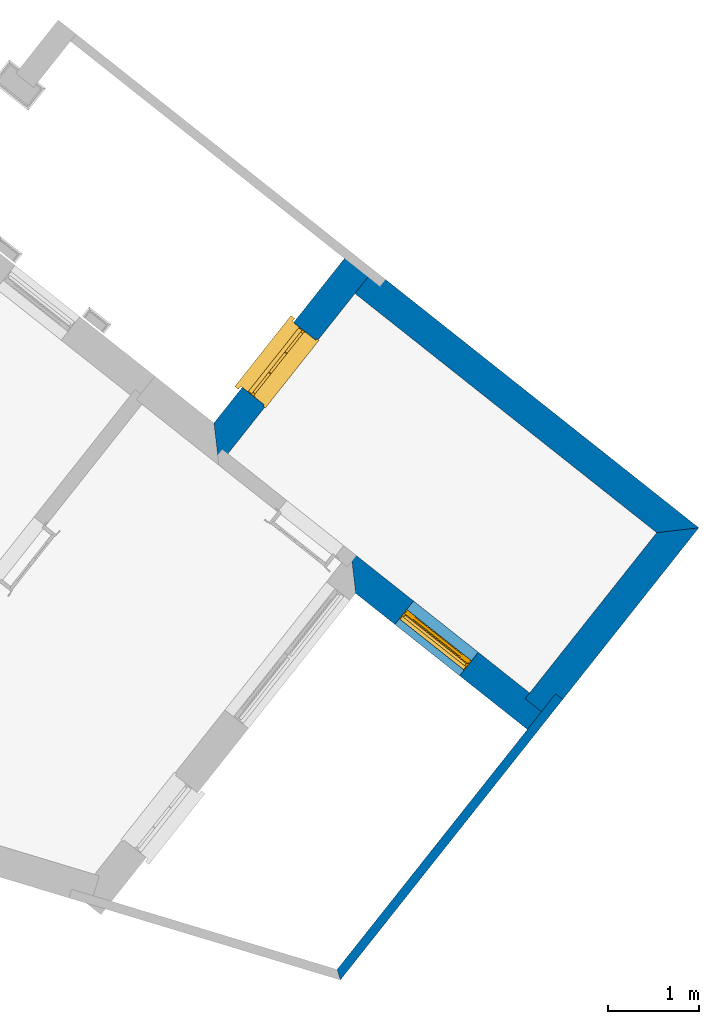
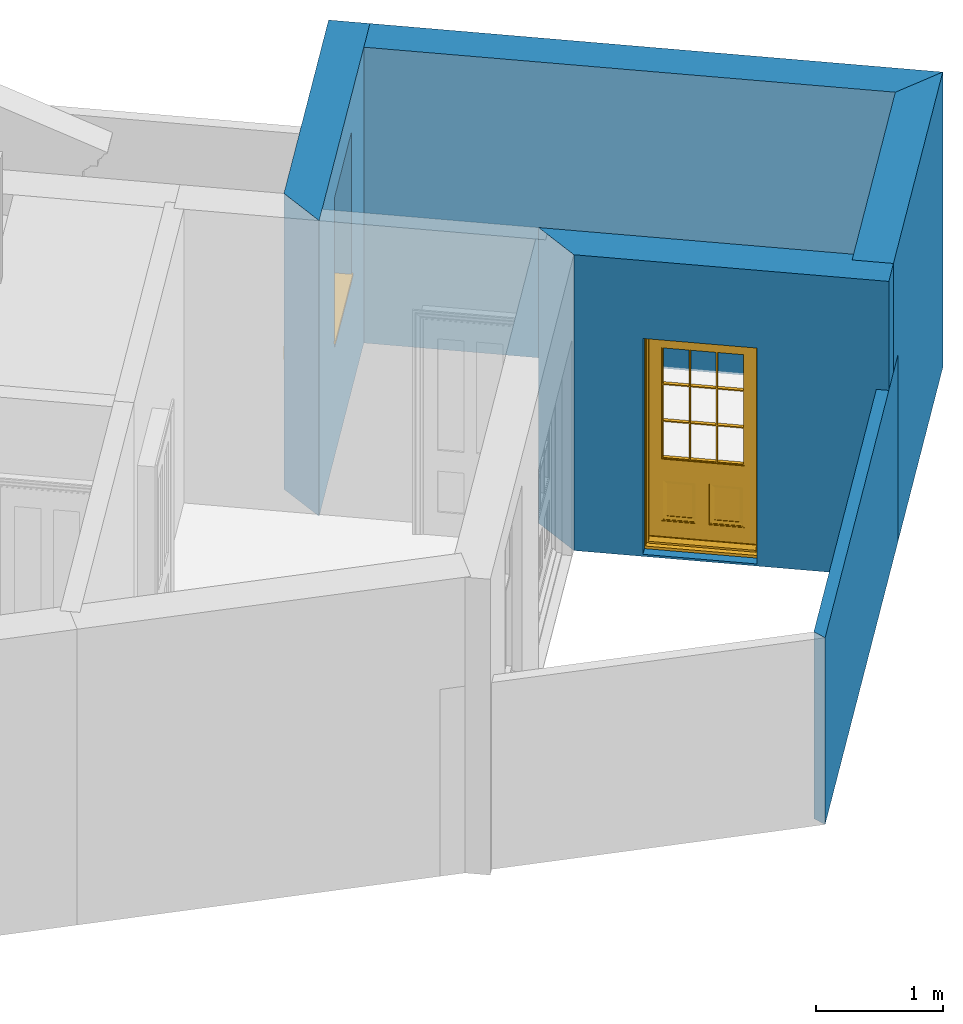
# One storey, part 6 of 8: 5 walls, 1 door, 1 window, 2 openings.
"""IFC4 building model written with IfcOpenShell, lengths in metres."""

from ifc_helpers import new_model, si_unit, frame, origin, origin_with_axes, place, context, subcontext, project, spatial, polyline, outline, extrude, faceted_brep, source, transform, mapped, material, layer, layer_set, layer_usage, type_object, type_shapes, element, fill, save


model = new_model("IFC4")

# Units and contexts
model_context = context("Model", 3, world=origin_with_axes())
body_context = subcontext(model_context, "Body", "Model", "MODEL_VIEW")
ifc_project = project(units=[si_unit("PLANEANGLEUNIT", "RADIAN"), si_unit("MASSUNIT", "GRAM", prefix="KILO"), si_unit("FORCEUNIT", "NEWTON", prefix="KILO"), si_unit("LENGTHUNIT", "METRE"), si_unit("AREAUNIT", "SQUARE_METRE"), si_unit("VOLUMEUNIT", "CUBIC_METRE")], contexts=[model_context, model_context])

# Sites, building, storey
site_1_placement = place(None, origin_with_axes())
site_1 = spatial("IfcSite", under=ifc_project, at=site_1_placement, Name="Tamar")
site_2_placement = place(site_1_placement, origin_with_axes())
site_2 = spatial("IfcSite", under=site_1, at=site_2_placement, Name="Site plot-5", CompositionType="ELEMENT")
building_placement = place(None, origin_with_axes())
building = spatial("IfcBuilding", under=site_2, at=building_placement, Name="Building plot-5", CompositionType="ELEMENT")
storey_placement = place(None, frame((0.0, 0.0, 24.0), z_axis=(0.0, 0.0, 1.0), x_axis=(1.0, 0.0, 0.0)))
storey = spatial("IfcBuildingStorey", under=building, at=storey_placement, Name="plot-5 0", CompositionType="ELEMENT", Elevation=24.0)

# Wall, opening, door
ifc_material_1 = material(Name="Masonry")
ifc_layer_1 = layer(ifc_material_1, 0.33, ventilated=False)
ifc_layer_set_1 = layer_set([ifc_layer_1], Name="exterior_0.08_0.25")
ifc_layer_usage_1 = layer_usage(ifc_layer_set_1, "AXIS2", "POSITIVE", -0.25)
wall_type_1 = type_object("IfcWallType", Name="exterior_0.08_0.25", PredefinedType="SOLIDWALL", material=ifc_layer_set_1)
wall_1_placement = place(storey_placement, frame((234.208321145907, 273.833509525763, 0.0), z_axis=(0.0, 0.0, 1.0), x_axis=(0.783658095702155, -0.621192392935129, 0.0)))
wall_1 = element("IfcWall", 1, at=wall_1_placement, inside=storey, type_object=wall_type_1, material=ifc_layer_usage_1, Name="exterior", context=body_context, shape_type="SweptSolid", body=[
    extrude(outline(polyline([(-0.0800000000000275, 0.0800000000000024), (0.2500000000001, -0.249999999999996), (2.76289073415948, -0.249999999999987), (2.76289073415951, 0.0799999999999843), (-0.0800000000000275, 0.0800000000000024)])), origin_with_axes(), (0.0, 0.0, 1.0), 2.85),
])
opening_1_placement = place(wall_1_placement, frame((0.801445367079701, 0.0, 0.0199999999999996)))
opening_1 = element("IfcOpeningElement", 2, at=opening_1_placement, cuts=wall_1, Name="My Opening", ObjectType="Opening", context=body_context, shape_type="SweptSolid", body=[
    extrude(outline(polyline([(0.0, -0.269999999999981), (0.910000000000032, -0.269999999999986), (0.910000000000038, 1.10000000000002), (6.21724893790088e-15, 1.10000000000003), (0.0, -0.269999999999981)])), origin_with_axes(), (0.0, 0.0, 1.0), 2.08),
])
door_type = type_object("IfcDoorType", Name="door_panelled", OperationType="SINGLE_SWING_LEFT", PredefinedType="NOTDEFINED")
shared_shape_1 = source(origin(), body_context, "Body", "Brep", [
    faceted_brep([(0.545, 0.195, 0.265), (0.745, 0.195, 0.265), (0.745, 0.2, 0.265), (0.545, 0.2, 0.265), (0.745, 0.2, 0.58), (0.545, 0.2, 0.58), (0.545, 0.195, 0.58), (0.515, 0.19, 0.235), (0.775, 0.19, 0.235), (0.745, 0.195, 0.58), (0.515, 0.19, 0.61), (0.515, 0.185, 0.235), (0.775, 0.185, 0.235), (0.775, 0.19, 0.61), (0.515, 0.185, 0.61), (0.785, 0.185, 0.225), (0.505, 0.185, 0.225), (0.775, 0.185, 0.61), (0.505, 0.185, 0.62), (0.785, 0.185, 0.62), (0.505, 0.18, 0.225), (0.785, 0.18, 0.225), (0.505, 0.18, 0.62), (0.785, 0.18, 0.62), (0.883, 0.18, 0.075), (0.898, 0.18, 0.075), (0.405, 0.18, 0.62), (0.405, 0.18, 0.225), (0.027, 0.18, 0.075), (0.785, 0.18, 0.82), (0.125, 0.18, 0.82), (0.405, 0.185, 0.62), (0.405, 0.185, 0.225), (0.898, 0.18, 2.068), (0.027, 0.17, 0.075), (0.883, 0.17, 0.075), (0.125, 0.18, 0.225), (0.012, 0.18, 0.075), (0.785, 0.19, 0.82), (0.125, 0.19, 0.82), (0.125, 0.18, 0.62), (0.125, 0.185, 0.62), (0.395, 0.185, 0.61), (0.395, 0.185, 0.235), (0.125, 0.185, 0.225), (0.785, 0.18, 1.895), (0.027, 0.14, 0.045), (0.883, 0.14, 0.045), (0.558333, 0.19, 0.83), (0.351667, 0.19, 0.83), (0.125, 0.18, 1.895), (0.125, 0.19, 1.895), (0.785, 0.19, 1.895), (0.012, 0.18, 2.068), (0.135, 0.185, 0.61), (0.395, 0.19, 0.61), (0.395, 0.19, 0.235), (0.135, 0.185, 0.235), (0.027, 0.14, 0.027), (0.883, 0.14, 0.027), (0.568333, 0.19, 0.83), (0.558333, 0.22, 0.83), (0.351667, 0.22, 0.83), (0.341667, 0.19, 0.83), (0.135, 0.19, 1.185), (0.135, 0.19, 1.53), (0.775, 0.19, 1.53), (0.775, 0.19, 1.185), (0.135, 0.19, 0.61), (0.365, 0.195, 0.58), (0.365, 0.195, 0.265), (0.135, 0.19, 0.235), (0.568333, 0.19, 1.175), (0.558333, 0.19, 1.175), (0.775, 0.19, 0.83), (0.558333, 0.22, 1.175), (0.785, 0.22, 0.82), (0.125, 0.22, 0.82), (0.351667, 0.22, 1.175), (0.351667, 0.19, 1.175), (0.341667, 0.19, 1.175), (0.135, 0.19, 0.83), (0.135, 0.19, 1.175), (0.135, 0.22, 1.185), (0.135, 0.22, 1.53), (0.135, 0.19, 1.54), (0.351667, 0.19, 1.885), (0.558333, 0.19, 1.885), (0.775, 0.22, 1.53), (0.775, 0.22, 1.185), (0.775, 0.19, 1.175), (0.775, 0.19, 1.54), (0.165, 0.195, 0.58), (0.365, 0.2, 0.58), (0.365, 0.2, 0.265), (0.165, 0.195, 0.265), (0.568333, 0.22, 0.83), (0.568333, 0.22, 1.175), (0.568333, 0.19, 1.185), (0.558333, 0.19, 1.185), (0.775, 0.22, 0.83), (0.785, 0.23, 0.82), (0.125, 0.23, 0.82), (0.341667, 0.22, 0.83), (0.341667, 0.22, 1.175), (0.351667, 0.19, 1.185), (0.341667, 0.19, 1.185), (0.135, 0.22, 0.83), (0.341667, 0.22, 1.185), (0.125, 0.22, 1.895), (0.341667, 0.22, 1.53), (0.341667, 0.19, 1.53), (0.135, 0.19, 1.885), (0.341667, 0.19, 1.54), (0.341667, 0.19, 1.885), (0.558333, 0.22, 1.885), (0.351667, 0.22, 1.885), (0.568333, 0.19, 1.885), (0.785, 0.22, 1.895), (0.568333, 0.22, 1.185), (0.568333, 0.19, 1.53), (0.568333, 0.22, 1.53), (0.568333, 0.19, 1.54), (0.775, 0.19, 1.885), (0.165, 0.2, 0.58), (0.165, 0.2, 0.265), (0.775, 0.22, 1.175), (0.558333, 0.19, 1.53), (0.351667, 0.22, 1.185), (0.558333, 0.22, 1.185), (0.505, 0.23, 0.62), (0.405, 0.23, 0.62), (0.125, 0.23, 1.895), (0.785, 0.23, 1.895), (0.351667, 0.19, 1.53), (0.135, 0.22, 1.175), (0.135, 0.22, 1.54), (0.341667, 0.22, 1.54), (0.135, 0.22, 1.885), (0.351667, 0.19, 1.54), (0.558333, 0.22, 1.54), (0.558333, 0.19, 1.54), (0.351667, 0.22, 1.54), (0.775, 0.22, 1.54), (0.568333, 0.22, 1.54), (0.775, 0.22, 1.885), (0.558333, 0.22, 1.53), (0.405, 0.23, 0.225), (0.505, 0.23, 0.225), (0.125, 0.23, 0.62), (0.785, 0.23, 0.62), (0.012, 0.23, 2.068), (0.898, 0.23, 2.068), (0.351667, 0.22, 1.53), (0.341667, 0.22, 1.885), (0.568333, 0.22, 1.885), (0.405, 0.225, 0.225), (0.405, 0.225, 0.62), (0.505, 0.225, 0.62), (0.505, 0.225, 0.225), (0.898, 0.23, 0.027), (0.012, 0.23, 0.027), (0.125, 0.225, 0.62), (0.785, 0.225, 0.62), (0.395, 0.225, 0.235), (0.395, 0.225, 0.61), (0.125, 0.23, 0.225), (0.125, 0.225, 0.225), (0.515, 0.225, 0.61), (0.515, 0.225, 0.235), (0.785, 0.23, 0.225), (0.785, 0.225, 0.225), (0.135, 0.225, 0.61), (0.775, 0.225, 0.61), (0.135, 0.225, 0.235), (0.395, 0.22, 0.235), (0.395, 0.22, 0.61), (0.515, 0.22, 0.61), (0.515, 0.22, 0.235), (0.775, 0.225, 0.235), (0.135, 0.22, 0.61), (0.775, 0.22, 0.61), (0.135, 0.22, 0.235), (0.365, 0.215, 0.265), (0.365, 0.215, 0.58), (0.545, 0.215, 0.58), (0.545, 0.215, 0.265), (0.775, 0.22, 0.235), (0.165, 0.215, 0.58), (0.745, 0.215, 0.58), (0.165, 0.215, 0.265), (0.365, 0.21, 0.58), (0.365, 0.21, 0.265), (0.545, 0.21, 0.58), (0.545, 0.21, 0.265), (0.745, 0.215, 0.265), (0.165, 0.21, 0.58), (0.745, 0.21, 0.58), (0.165, 0.21, 0.265), (0.745, 0.21, 0.265), (0.885, 0.178, 0.025), (0.025, 0.178, 0.025), (0.025, 0.15, 0.025), (0.885, 0.15, 0.025), (0.9, 0.23, 0.025), (0.01, 0.23, 0.025), (0.9, 0.178, 0.025), (0.91, 0.23, 0.0), (0.0, 0.23, 0.0), (0.01, 0.178, 0.025), (0.9, 0.178, 2.07), (0.9, 0.23, 2.07), (0.885, 0.178, 2.055), (0.91, 0.23, 2.08), (0.01, 0.23, 2.07), (0.0, 0.23, 2.08), (0.01, 0.178, 2.07), (0.025, 0.178, 2.055), (0.0, 0.1, 2.08), (0.91, 0.1, 2.08), (0.01, 0.1, 2.07), (0.9, 0.1, 2.07), (0.01, 0.15, 2.07), (0.9, 0.15, 2.07), (0.0, 0.1, 0.0), (0.91, 0.1, 0.0), (0.01, 0.1, 0.025), (0.9, 0.1, 0.025), (0.01, 0.15, 0.025), (0.025, 0.15, 2.055), (0.9, 0.15, 0.025), (0.885, 0.15, 2.055), (0.898, 0.18, 0.027), (0.012, 0.18, 0.027), (0.883, 0.18, 0.027), (0.027, 0.18, 0.027)], [[[0, 1, 2, 3]], [[2, 4, 5, 3]], [[0, 3, 5, 6]], [[1, 0, 7, 8]], [[9, 4, 2, 1]], [[9, 6, 5, 4]], [[0, 6, 10, 7]], [[8, 7, 11, 12]], [[8, 13, 9, 1]], [[13, 10, 6, 9]], [[7, 10, 14, 11]], [[15, 12, 11, 16]], [[12, 17, 13, 8]], [[17, 14, 10, 13]], [[18, 16, 11, 14]], [[15, 19, 17, 12]], [[15, 16, 20, 21]], [[14, 17, 19, 18]], [[16, 18, 22, 20]], [[21, 23, 19, 15]], [[24, 25, 21, 20]], [[23, 22, 18, 19]], [[20, 22, 26, 27]], [[23, 21, 25]], [[28, 24, 20, 27]], [[22, 23, 29]], [[29, 30, 26, 22]], [[27, 26, 31, 32]], [[23, 25, 33, 29]], [[34, 35, 24, 28]], [[28, 27, 36, 37]], [[38, 39, 30, 29]], [[26, 30, 40]], [[26, 40, 41, 31]], [[42, 43, 32, 31]], [[32, 44, 36, 27]], [[33, 45, 29]], [[46, 47, 35, 34]], [[36, 40, 37]], [[39, 38, 48, 49]], [[50, 30, 39, 51]], [[29, 45, 52, 38]], [[53, 37, 40, 30]], [[44, 41, 40, 36]], [[31, 41, 54, 42]], [[43, 42, 55, 56]], [[57, 44, 32, 43]], [[50, 45, 33, 53]], [[47, 46, 58, 59]], [[60, 48, 38]], [[49, 48, 61, 62]], [[49, 63, 39]], [[50, 53, 30]], [[51, 39, 64, 65]], [[45, 50, 51, 52]], [[66, 67, 38, 52]], [[57, 54, 41, 44]], [[42, 54, 68, 55]], [[56, 55, 69, 70]], [[56, 71, 57, 43]], [[60, 72, 73, 48]], [[60, 38, 74]], [[48, 73, 75, 61]], [[76, 77, 62, 61]], [[62, 78, 79, 49]], [[49, 79, 80, 63]], [[63, 81, 39]], [[82, 64, 39]], [[65, 64, 83, 84]], [[85, 51, 65]], [[52, 51, 86, 87]], [[88, 89, 67, 66]], [[90, 38, 67]], [[91, 66, 52]], [[71, 68, 54, 57]], [[55, 68, 92, 69]], [[69, 93, 94, 70]], [[70, 95, 71, 56]], [[96, 97, 72, 60]], [[73, 72, 98, 99]], [[74, 38, 90]], [[100, 96, 60, 74]], [[75, 73, 79, 78]], [[61, 75, 97, 96]], [[101, 102, 77, 76]], [[77, 103, 62]], [[96, 76, 61]], [[103, 104, 78, 62]], [[80, 79, 105, 106]], [[63, 80, 104, 103]], [[81, 63, 103, 107]], [[81, 82, 39]], [[106, 64, 82, 80]], [[106, 108, 83, 64]], [[84, 83, 77, 109]], [[110, 111, 65, 84]], [[112, 51, 85]], [[113, 85, 65, 111]], [[114, 86, 51]], [[115, 87, 86, 116]], [[117, 52, 87]], [[118, 76, 89, 88]], [[119, 98, 67, 89]], [[120, 121, 88, 66]], [[67, 98, 72, 90]], [[91, 122, 120, 66]], [[91, 52, 123]], [[95, 92, 68, 71]], [[69, 92, 124, 93]], [[94, 93, 124, 125]], [[94, 125, 95, 70]], [[72, 97, 126, 90]], [[127, 99, 98, 120]], [[99, 105, 79, 73]], [[74, 90, 126, 100]], [[96, 100, 76]], [[128, 129, 75, 78]], [[97, 75, 129, 119]], [[130, 131, 102, 101]], [[109, 77, 102, 132]], [[133, 101, 76, 118]], [[77, 107, 103]], [[78, 104, 108, 128]], [[111, 106, 105, 134]], [[104, 80, 82, 135]], [[107, 135, 82, 81]], [[110, 108, 106, 111]], [[104, 135, 83, 108]], [[83, 135, 77]], [[136, 84, 109]], [[110, 84, 136, 137]], [[114, 51, 112]], [[85, 136, 138, 112]], [[113, 137, 136, 85]], [[111, 134, 139, 113]], [[86, 114, 113, 139]], [[140, 141, 87, 115]], [[139, 142, 116, 86]], [[109, 118, 115, 116]], [[117, 123, 52]], [[117, 87, 141, 122]], [[126, 89, 76]], [[143, 118, 88]], [[120, 98, 119, 121]], [[119, 89, 126, 97]], [[144, 143, 88, 121]], [[144, 122, 91, 143]], [[127, 120, 122, 141]], [[143, 91, 123, 145]], [[124, 92, 95, 125]], [[146, 129, 99, 127]], [[99, 129, 128, 105]], [[100, 126, 76]], [[121, 119, 129, 146]], [[147, 131, 130, 148]], [[131, 149, 102]], [[130, 101, 150]], [[102, 151, 132]], [[118, 109, 132, 133]], [[101, 133, 152]], [[107, 77, 135]], [[153, 128, 108, 110]], [[134, 105, 128, 153]], [[109, 138, 136]], [[153, 110, 137, 142]], [[154, 114, 112, 138]], [[137, 113, 114, 154]], [[141, 139, 134, 127]], [[141, 140, 142, 139]], [[144, 140, 115, 155]], [[142, 137, 154, 116]], [[155, 115, 118]], [[116, 154, 109]], [[117, 155, 145, 123]], [[122, 144, 155, 117]], [[143, 145, 118]], [[121, 146, 140, 144]], [[146, 127, 134, 153]], [[156, 157, 131, 147]], [[148, 130, 158, 159]], [[148, 160, 161, 147]], [[157, 162, 149, 131]], [[161, 151, 102, 149]], [[101, 152, 160, 150]], [[163, 158, 130, 150]], [[151, 152, 133, 132]], [[154, 138, 109]], [[142, 140, 146, 153]], [[145, 155, 118]], [[157, 156, 164, 165]], [[147, 166, 167, 156]], [[168, 169, 159, 158]], [[170, 148, 159, 171]], [[148, 170, 160]], [[166, 147, 161]], [[172, 162, 157, 165]], [[166, 149, 162, 167]], [[166, 161, 149]], [[150, 160, 170]], [[163, 173, 168, 158]], [[171, 163, 150, 170]], [[174, 164, 156, 167]], [[175, 176, 165, 164]], [[169, 168, 177, 178]], [[171, 159, 169, 179]], [[167, 162, 172, 174]], [[176, 180, 172, 165]], [[179, 173, 163, 171]], [[181, 177, 168, 173]], [[164, 174, 182, 175]], [[183, 184, 176, 175]], [[178, 177, 185, 186]], [[179, 169, 178, 187]], [[174, 172, 180, 182]], [[184, 188, 180, 176]], [[187, 181, 173, 179]], [[189, 185, 177, 181]], [[175, 182, 190, 183]], [[191, 184, 183, 192]], [[185, 193, 194, 186]], [[187, 178, 186, 195]], [[182, 180, 188, 190]], [[191, 196, 188, 184]], [[195, 189, 181, 187]], [[197, 193, 185, 189]], [[183, 190, 198, 192]], [[198, 196, 191, 192]], [[194, 193, 197, 199]], [[195, 186, 194, 199]], [[188, 196, 198, 190]], [[197, 189, 195, 199]], [[200, 201, 202, 203]], [[201, 200, 204, 205]], [[206, 204, 200]], [[204, 207, 208, 205]], [[209, 201, 205]], [[210, 211, 204, 206]], [[206, 200, 212, 210]], [[211, 213, 207, 204]], [[214, 205, 208, 215]], [[216, 217, 201, 209]], [[205, 214, 216, 209]], [[216, 214, 211, 210]], [[210, 212, 217, 216]], [[214, 215, 213, 211]], [[218, 219, 213, 215]], [[219, 218, 220, 221]], [[221, 220, 222, 223]], [[215, 208, 224, 218]], [[225, 224, 208, 207]], [[224, 226, 220, 218]], [[224, 225, 227, 226]], [[219, 225, 207, 213]], [[228, 222, 220, 226]], [[219, 221, 227, 225]], [[226, 227, 203, 202]], [[202, 229, 222, 228]], [[228, 226, 202]], [[227, 221, 223, 230]], [[230, 203, 227]], [[217, 229, 202, 201]], [[231, 223, 222, 229]], [[230, 223, 231, 203]], [[231, 229, 217, 212]], [[212, 200, 203, 231]], [[33, 152, 151, 53]], [[25, 160, 152, 33]], [[161, 37, 53, 151]], [[232, 160, 25]], [[161, 233, 37]], [[160, 232, 234]], [[24, 234, 232, 25]], [[233, 161, 235]], [[37, 233, 235, 28]], [[161, 160, 234, 235]], [[35, 47, 234, 24]], [[28, 235, 46, 34]], [[58, 235, 234, 59]], [[59, 234, 47]], [[58, 46, 235]]]),
])
type_shapes(door_type, [shared_shape_1])
door_placement = place(storey_placement, frame((234.66865834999, 273.12407007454, 0.0199999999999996), z_axis=(0.0, 0.0, 1.0), x_axis=(0.713128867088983, -0.565285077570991, 0.0)))
door = element("IfcDoor", 3, at=door_placement, inside=storey, type_object=door_type, Name="kitchen outside door", OverallHeight=2.08, OverallWidth=0.91, context=body_context, shape_type="MappedRepresentation", body=[
    mapped(shared_shape_1, transform((0.0, 0.0, 0.0), scale=1.0)),
])
fill(opening_1, door)

# Wall, opening, window
wall_2_placement = place(storey_placement, frame((234.228257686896, 276.89639021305, 0.0), z_axis=(0.0, 0.0, 1.0), x_axis=(-0.621192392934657, -0.78365809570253, 0.0)))
wall_2 = element("IfcWall", 4, at=wall_2_placement, inside=storey, type_object=wall_type_1, material=ifc_layer_usage_1, Name="exterior", context=body_context, shape_type="SweptSolid", body=[
    extrude(outline(polyline([(-0.249999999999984, 0.0800000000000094), (-0.250000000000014, -0.250000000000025), (2.16263567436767, -0.250000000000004), (2.49263567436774, 0.0800000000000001), (-0.249999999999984, 0.0800000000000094)])), origin_with_axes(), (0.0, 0.0, 1.0), 2.85),
])
opening_2_placement = place(wall_2_placement, frame((0.751317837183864, 0.0, 1.05)))
opening_2 = element("IfcOpeningElement", 5, at=opening_2_placement, cuts=wall_2, Name="My Opening", ObjectType="Opening", context=body_context, shape_type="SweptSolid", body=[
    extrude(outline(polyline([(0.0, -0.269999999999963), (0.90999999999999, -0.270000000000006), (0.909999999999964, 1.09999999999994), (-2.50910403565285e-14, 1.09999999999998), (0.0, -0.269999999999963)])), origin_with_axes(), (0.0, 0.0, 1.0), 1.445),
])
window_type = type_object("IfcWindowType", Name="sash_shorter", PartitioningType="DOUBLE_PANEL_HORIZONTAL", PredefinedType="NOTDEFINED")
shared_shape_2 = source(origin(), body_context, "Body", "Brep", [
    faceted_brep([(0.876875, 0.145, 0.999097), (0.876875, 0.145, 1.411875), (0.9, 0.145, 1.435), (0.033125, 0.145, 1.411875), (0.033125, 0.145, 0.999097), (0.01, 0.145, 1.435), (0.033125, 0.115, 1.411875), (0.01, 0.115, 1.435), (0.033125, 0.115, 0.999097), (0.876875, 0.115, 1.411875), (0.876875, 0.115, 0.999097), (0.9, 0.115, 1.435), (0.033125, 0.145, 0.960972), (0.01, 0.145, 0.960972), (0.033125, 0.145, 0.548195), (0.876875, 0.145, 0.960972), (0.876875, 0.145, 0.548195), (0.9, 0.145, 0.960972), (0.876875, 0.145, 0.538195), (0.876875, 0.145, 0.125417), (0.9, 0.145, 0.077167), (0.033125, 0.145, 0.125417), (0.033125, 0.145, 0.538195), (0.01, 0.145, 0.077167), (0.9, 0.115, 0.960972), (0.01, 0.115, 0.960972), (-0.0425, 0.0, 0.01), (-0.0425, -0.05, 0.001667), (0.0, 0.0, 0.01), (0.9525, 0.0, 0.01), (0.91, 0.0, 0.01), (0.9525, -0.05, 0.001667), (-0.02, 0.33, 0.077167), (0.0, 0.33, 0.077167), (-0.02, 0.36, 0.077167), (0.0, 0.19, 0.077167), (0.01, 0.19, 0.077167), (0.91, 0.19, 0.077167), (0.91, 0.33, 0.077167), (0.9, 0.19, 0.077167), (0.93, 0.33, 0.077167), (0.93, 0.36, 0.077167), (0.01, 0.145, 0.999097), (0.01, 0.175, 0.999097), (0.9, 0.145, 0.999097), (0.9, 0.175, 0.999097), (0.876875, 0.175, 0.125417), (0.876875, 0.175, 0.538195), (0.9, 0.175, 0.077167), (0.876875, 0.175, 0.548195), (0.876875, 0.175, 0.960972), (0.033125, 0.175, 0.125417), (0.01, 0.175, 0.077167), (0.033125, 0.175, 0.538195), (0.033125, 0.175, 0.960972), (0.033125, 0.175, 0.548195), (-0.02, 0.33, 0.052167), (-0.02, 0.36, 0.052167), (0.93, 0.36, 0.052167), (0.93, 0.33, 0.052167), (0.91, 0.33, 0.052167), (0.0, 0.33, 0.052167), (0.91, 0.1, 0.026667), (0.0, 0.1, 0.026667), (-0.0425, -0.05, -0.123333), (0.9525, -0.05, -0.123333), (-0.0425, 0.0, -0.123333), (0.9525, 0.0, -0.123333), (0.01, 0.19, 1.435), (0.9, 0.19, 1.435), (0.0, 0.19, 1.445), (0.91, 0.19, 1.445), (0.01, 0.1, 0.077167), (0.9, 0.1, 0.077167), (0.592292, 0.145, 0.125417), (0.592292, 0.175, 0.125417), (0.317708, 0.175, 0.125417), (0.317708, 0.145, 0.125417), (0.592292, 0.145, 0.548195), (0.317708, 0.145, 0.548195), (0.317708, 0.145, 0.538195), (0.592292, 0.145, 0.538195), (0.592292, 0.175, 0.548195), (0.317708, 0.175, 0.548195), (0.602292, 0.175, 0.548195), (0.602292, 0.145, 0.548195), (0.317708, 0.175, 0.538195), (0.307708, 0.175, 0.125417), (0.307708, 0.175, 0.538195), (0.602292, 0.175, 0.538195), (0.602292, 0.175, 0.125417), (0.592292, 0.175, 0.538195), (0.307708, 0.175, 0.548195), (0.317708, 0.175, 0.960972), (0.307708, 0.175, 0.960972), (0.602292, 0.175, 0.960972), (0.592292, 0.175, 0.960972), (0.307708, 0.145, 0.538195), (0.307708, 0.145, 0.125417), (0.307708, 0.145, 0.548195), (0.307708, 0.145, 0.960972), (0.592292, 0.145, 0.960972), (0.317708, 0.145, 0.960972), (0.602292, 0.145, 0.960972), (0.602292, 0.145, 0.538195), (0.602292, 0.145, 0.125417), (0.317708, 0.115, 1.411875), (0.307708, 0.115, 1.411875), (0.307708, 0.115, 0.999097), (0.317708, 0.115, 0.999097), (0.602292, 0.115, 1.411875), (0.592292, 0.115, 1.411875), (0.592292, 0.115, 0.999097), (0.602292, 0.115, 0.999097), (0.317708, 0.145, 0.999097), (0.307708, 0.145, 0.999097), (0.307708, 0.145, 1.411875), (0.317708, 0.145, 1.411875), (0.602292, 0.145, 0.999097), (0.592292, 0.145, 0.999097), (0.592292, 0.145, 1.411875), (0.602292, 0.145, 1.411875), (0.91, 0.1, 1.445), (0.9, 0.1, 1.435), (0.01, 0.1, 1.435), (0.0, 0.1, 1.445), (0.91, 0.0, 0.0), (0.0, 0.0, 0.0), (0.91, 0.33, 0.0), (0.0, 0.33, 0.0)], [[[0, 1, 2]], [[3, 4, 5]], [[6, 7, 8]], [[9, 10, 11]], [[12, 13, 14]], [[15, 16, 17]], [[18, 19, 20]], [[21, 22, 23]], [[24, 15, 17]], [[13, 12, 25]], [[26, 27, 28]], [[29, 30, 31]], [[32, 33, 34]], [[35, 36, 33]], [[37, 38, 39]], [[40, 41, 38]], [[42, 4, 43]], [[44, 45, 0]], [[46, 47, 48]], [[49, 50, 45]], [[51, 52, 53]], [[54, 55, 43]], [[38, 33, 36, 39]], [[41, 34, 33, 38]], [[56, 32, 34, 57]], [[57, 34, 41, 58]], [[58, 41, 40, 59]], [[57, 58, 60, 61]], [[52, 48, 39, 36]], [[62, 63, 28, 30]], [[27, 31, 30, 28]], [[27, 64, 65, 31]], [[66, 67, 65, 64]], [[2, 5, 68, 69]], [[68, 70, 71, 69]], [[20, 23, 72, 73]], [[73, 72, 63, 62]], [[74, 75, 76, 77]], [[78, 79, 80, 81]], [[78, 82, 83, 79]], [[16, 49, 84, 85]], [[86, 76, 87, 88]], [[89, 90, 75, 91]], [[92, 88, 53, 55]], [[82, 91, 86, 83]], [[93, 83, 92, 94]], [[95, 84, 82, 96]], [[89, 84, 49, 47]], [[97, 88, 87, 98]], [[22, 53, 88, 97]], [[81, 91, 75, 74]], [[80, 86, 91, 81]], [[77, 76, 86, 80]], [[99, 92, 55, 14]], [[100, 94, 92, 99]], [[101, 96, 82, 78]], [[79, 83, 93, 102]], [[85, 84, 95, 103]], [[104, 89, 47, 18]], [[105, 90, 89, 104]], [[104, 18, 16, 85]], [[80, 97, 98, 77]], [[104, 81, 74, 105]], [[103, 101, 78, 85]], [[99, 14, 22, 97]], [[102, 100, 99, 79]], [[106, 107, 108, 109]], [[110, 111, 112, 113]], [[114, 115, 116, 117]], [[118, 119, 120, 121]], [[107, 116, 115, 108]], [[111, 120, 119, 112]], [[109, 114, 117, 106]], [[113, 118, 121, 110]], [[85, 78, 81, 104]], [[84, 89, 91, 82]], [[83, 86, 88, 92]], [[79, 99, 97, 80]], [[109, 112, 119, 114]], [[102, 93, 96, 101]], [[106, 117, 120, 111]], [[98, 87, 51, 21]], [[6, 3, 116, 107]], [[110, 121, 1, 9]], [[19, 46, 90, 105]], [[26, 66, 64, 27]], [[29, 31, 65, 67]], [[25, 24, 112, 109]], [[11, 7, 106, 111]], [[75, 48, 52, 76]], [[43, 45, 96, 93]], [[45, 43, 114, 119]], [[5, 2, 120, 117]], [[24, 25, 102, 101]], [[42, 5, 4]], [[2, 44, 0]], [[49, 45, 48, 47]], [[52, 43, 55, 53]], [[14, 13, 23, 22]], [[20, 17, 16, 18]], [[24, 11, 10]], [[25, 8, 7]], [[8, 4, 3, 6]], [[9, 1, 0, 10]], [[15, 50, 49, 16]], [[18, 47, 46, 19]], [[21, 51, 53, 22]], [[14, 55, 54, 12]], [[44, 2, 69, 45]], [[68, 5, 42, 43]], [[36, 35, 70, 68]], [[39, 69, 71, 37]], [[62, 122, 123, 73]], [[63, 72, 124, 125]], [[8, 108, 115, 4]], [[113, 10, 0, 118]], [[94, 100, 12, 54]], [[17, 20, 73, 24]], [[72, 23, 13, 25]], [[52, 36, 68, 43]], [[69, 39, 48, 45]], [[11, 24, 73, 123]], [[7, 124, 72, 25]], [[23, 77, 98]], [[98, 21, 23]], [[105, 74, 20]], [[20, 19, 105]], [[20, 74, 77, 23]], [[113, 112, 24]], [[24, 10, 113]], [[25, 109, 108]], [[108, 8, 25]], [[110, 9, 11]], [[11, 111, 110]], [[7, 6, 107]], [[107, 106, 7]], [[5, 117, 116]], [[116, 3, 5]], [[121, 120, 2]], [[2, 1, 121]], [[11, 123, 124, 7]], [[122, 125, 124, 123]], [[43, 93, 94]], [[94, 54, 43]], [[96, 45, 95]], [[50, 95, 45]], [[15, 103, 95, 50]], [[48, 75, 90]], [[90, 46, 48]], [[87, 76, 52]], [[52, 51, 87]], [[103, 15, 24]], [[24, 101, 103]], [[100, 102, 25]], [[25, 12, 100]], [[115, 114, 43]], [[43, 4, 115]], [[118, 0, 45]], [[45, 119, 118]], [[71, 70, 125, 122]], [[70, 35, 63, 125]], [[122, 62, 37, 71]], [[126, 67, 66, 127]], [[60, 58, 59]], [[38, 60, 59, 40]], [[61, 56, 57]], [[32, 56, 61, 33]], [[61, 60, 128, 129]], [[62, 60, 38, 37]], [[126, 128, 60, 62]], [[33, 61, 63, 35]], [[61, 129, 127, 63]], [[128, 126, 127, 129]], [[28, 127, 66, 26]], [[63, 127, 28]], [[29, 67, 126, 30]], [[30, 126, 62]]]),
])
type_shapes(window_type, [shared_shape_2])
window_placement = place(storey_placement, frame((233.549957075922, 276.475335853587, 1.05), z_axis=(0.0, 0.0, 1.0), x_axis=(-0.565285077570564, -0.713128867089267, 0.0)))
window = element("IfcWindow", 6, at=window_placement, inside=storey, type_object=window_type, Name="kitchen outside window", OverallHeight=1.445, OverallWidth=0.91, context=body_context, shape_type="MappedRepresentation", body=[
    mapped(shared_shape_2, transform((0.0, 0.0, 0.0), scale=1.0)),
])
fill(opening_2, window)

# Walls
ifc_material_2 = material(Name="Masonry")
ifc_layer_2 = layer(ifc_material_2, 0.33, ventilated=False)
ifc_layer_set_2 = layer_set([ifc_layer_2], Name="party_0.08_0.25")
ifc_layer_usage_2 = layer_usage(ifc_layer_set_2, "AXIS2", "POSITIVE", -0.25)
wall_type_2 = type_object("IfcWallType", Name="party_0.08_0.25", PredefinedType="SOLIDWALL", material=ifc_layer_set_2)
wall_3_placement = place(storey_placement, frame((236.177568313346, 272.272520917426, 0.0), z_axis=(0.0, 0.0, 1.0), x_axis=(0.62119239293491, 0.783658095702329, 0.0)))
element("IfcWall", 7, at=wall_3_placement, inside=storey, type_object=wall_type_2, material=ifc_layer_usage_2, Name="party", context=body_context, shape_type="SweptSolid", body=[
    extrude(outline(polyline([(7.46559731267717e-15, 0.079999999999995), (-1.34183905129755e-14, -0.250000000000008), (2.6626356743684, -0.250000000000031), (2.33263567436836, 0.0800000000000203), (7.46559731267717e-15, 0.079999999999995)])), origin_with_axes(), (0.0, 0.0, 1.0), 2.85),
])
wall_4_placement = place(storey_placement, frame((237.676279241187, 274.163202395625, 0.0), z_axis=(0.0, 0.0, 1.0), x_axis=(-0.783658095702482, 0.621192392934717, 0.0)))
element("IfcWall", 8, at=wall_4_placement, inside=storey, type_object=wall_type_2, material=ifc_layer_usage_2, Name="party", context=body_context, shape_type="SweptSolid", body=[
    extrude(outline(polyline([(0.0800000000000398, 0.0799999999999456), (-0.250000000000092, -0.250000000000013), (4.39990548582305, -0.250000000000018), (4.39990548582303, 0.0799999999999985), (0.0800000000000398, 0.0799999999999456)])), origin_with_axes(), (0.0, 0.0, 1.0), 2.85),
])
ifc_material_3 = material(Name="Masonry")
ifc_layer_3 = layer(ifc_material_3, 0.1, ventilated=False)
ifc_layer_set_3 = layer_set([ifc_layer_3], Name="fence_-0.15_0.25")
ifc_layer_usage_3 = layer_usage(ifc_layer_set_3, "AXIS2", "POSITIVE", -0.25)
wall_type_3 = type_object("IfcWallType", Name="fence_-0.15_0.25", PredefinedType="SOLIDWALL", material=ifc_layer_set_3)
wall_5_placement = place(storey_placement, frame((233.990565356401, 269.513532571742, 0.0), z_axis=(0.0, 0.0, 1.0), x_axis=(0.621192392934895, 0.783658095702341, 0.0)))
element("IfcWall", 9, at=wall_5_placement, inside=storey, type_object=wall_type_3, material=ifc_layer_usage_3, Name="fence", context=body_context, shape_type="SweptSolid", body=[
    extrude(outline(polyline([(-0.101971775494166, -0.15000000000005), (-0.169952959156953, -0.250000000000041), (3.77065315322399, -0.250000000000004), (3.77065315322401, -0.150000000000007), (-0.101971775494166, -0.15000000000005)])), origin_with_axes(), (0.0, 0.0, 1.0), 1.8),
])

save(model, "model.ifc")
